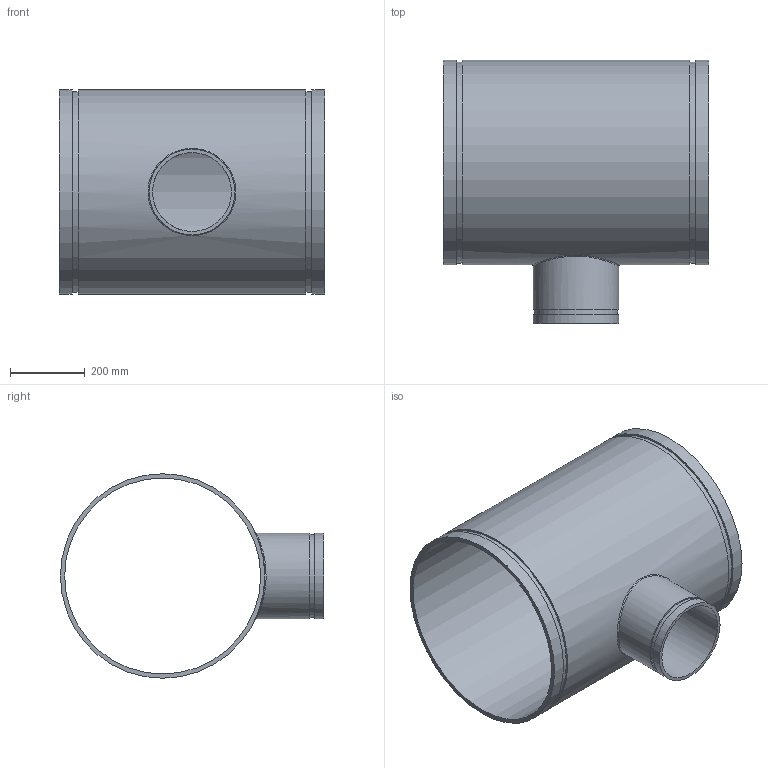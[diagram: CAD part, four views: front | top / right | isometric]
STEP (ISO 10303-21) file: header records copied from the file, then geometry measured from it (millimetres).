
FILE_DESCRIPTION(/* description */ ('VIC REDUCING TEE No 25-C','CAx-IF Rec.Pracs.---Representation and Presentation of Product Manufacturing Information (PMI)---4.0---2014-10-13'),/* implementation_level */ '2;1');
FILE_NAME(/* name */ 'C:\Users\Vjadhav\AppData\Roaming\Autodesk\ApplicationPlugins\Back Up\Victaulic_AWWA_Tee Reducing_No 25-C (DRG)\Victaulic_AWWA_Tee Reducing_No 25-C (DRG)_20.0x08.0 (500x200).stp',/* time_stamp */ '2020-08-18T18:18:37+06:00',/* author */ ('CORINNE GRAY'),/* organization */ ('Victaulic'),/* preprocessor_version */ 'ST-DEVELOPER v17.2',/* originating_system */ 'Autodesk Inventor 2019',/* authorisation */ '');
FILE_SCHEMA (('AP242_MANAGED_MODEL_BASED_3D_ENGINEERING_MIM_LF { 1 0 10303 442 1 1 4 }'));
Length unit declared in the file: inch
Products named in the file (1): 25C-20.0x08.0
Bounding box: 711.2 x 706.12 x 548.64 mm (x, y, z)
Volume: 14088667.7 mm3; surface area: 2645483.5 mm2
Topology: 1 solids, 1 shells, 20 faces, 44 edges, 33 vertices
Faces by surface type: cylinder 10, plane 9, bspline 1
Full cylindrical faces by diameter (mm): 211.582 x1, 223.037 x1, 229.87 x2, 525.78 x1, 538.963 x2, 548.64 x3
Entity records: 982 total; most frequent: CARTESIAN_POINT 358, DIRECTION 135, ORIENTED_EDGE 90, AXIS2_PLACEMENT_3D 62, EDGE_CURVE 45, VERTEX_POINT 34, EDGE_LOOP 31, CIRCLE 29
